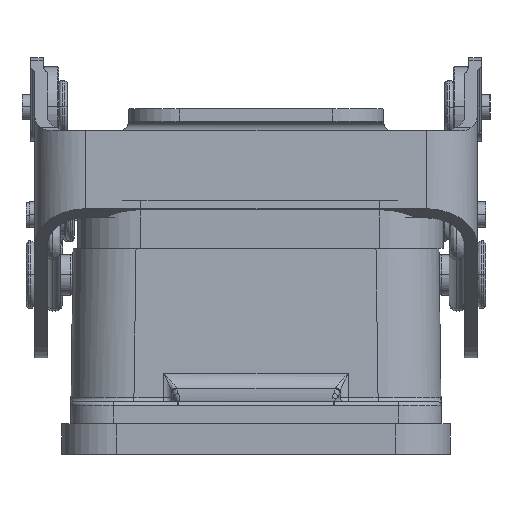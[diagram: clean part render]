
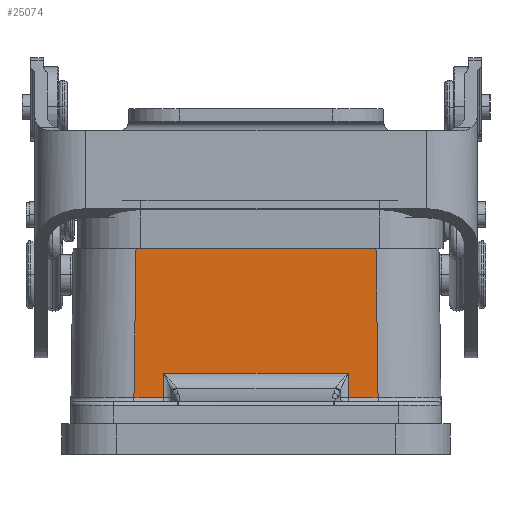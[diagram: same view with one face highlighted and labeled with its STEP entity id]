
A CAD part, left-side view. The second image highlights one B-rep face of the part: STEP entity #25074.
In plain terms, the highlighted planar face has unit normal (-1, 0, 0.014).
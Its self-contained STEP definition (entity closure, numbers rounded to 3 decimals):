
#640 = LINE ( 'NONE', #7027, #26975 ) ;
#1169 = ORIENTED_EDGE ( 'NONE', *, *, #28936, .F. ) ;
#1559 = ORIENTED_EDGE ( 'NONE', *, *, #28098, .T. ) ;
#2441 = EDGE_LOOP ( 'NONE', ( #34374, #26628, #1559, #34798, #1169, #27220, #21617, #18339 ) ) ;
#3457 = EDGE_CURVE ( 'NONE', #11421, #37320, #39206, .T. ) ;
#3568 = CARTESIAN_POINT ( 'NONE',  ( -60.244, -14.345, 4.693 ) ) ;
#4262 = FACE_OUTER_BOUND ( 'NONE', #2441, .T. ) ;
#4570 = VECTOR ( 'NONE', #5698, 1000. ) ;
#4842 = VECTOR ( 'NONE', #15498, 1000. ) ;
#5698 = DIRECTION ( 'NONE',  ( -0.014, 0., -1. ) ) ;
#5971 = VERTEX_POINT ( 'NONE', #38454 ) ;
#6070 = DIRECTION ( 'NONE',  ( 0., -1., 0. ) ) ;
#6888 = VERTEX_POINT ( 'NONE', #15482 ) ;
#7027 = CARTESIAN_POINT ( 'NONE',  ( -60.244, 24.278, 4.693 ) ) ;
#9315 = CARTESIAN_POINT ( 'NONE',  ( -60., 24.278, 22.2 ) ) ;
#9477 = CARTESIAN_POINT ( 'NONE',  ( -60.163, -14.263, 10.529 ) ) ;
#9784 = LINE ( 'NONE', #19325, #13772 ) ;
#10107 = LINE ( 'NONE', #24899, #13085 ) ;
#11247 = VECTOR ( 'NONE', #24128, 1000. ) ;
#11358 = CARTESIAN_POINT ( 'NONE',  ( -60.205, -10.869, 7.537 ) ) ;
#11421 = VERTEX_POINT ( 'NONE', #28373 ) ;
#13085 = VECTOR ( 'NONE', #31327, 1000. ) ;
#13111 = CARTESIAN_POINT ( 'NONE',  ( -60., -14.101, 22.2 ) ) ;
#13198 = CARTESIAN_POINT ( 'NONE',  ( -60.081, -14.182, 16.364 ) ) ;
#13423 = VERTEX_POINT ( 'NONE', #11358 ) ;
#13498 = DIRECTION ( 'NONE',  ( 0., -1., 0. ) ) ;
#13772 = VECTOR ( 'NONE', #6070, 1000. ) ;
#15482 = CARTESIAN_POINT ( 'NONE',  ( -60.244, -14.345, 4.693 ) ) ;
#15498 = DIRECTION ( 'NONE',  ( 0., -1., 0. ) ) ;
#15919 = CARTESIAN_POINT ( 'NONE',  ( -60., 0., 22.2 ) ) ;
#15995 = EDGE_CURVE ( 'NONE', #5971, #19628, #640, .T. ) ;
#16057 = DIRECTION ( 'NONE',  ( 0., -1., 0. ) ) ;
#16425 = EDGE_CURVE ( 'NONE', #18616, #13423, #37012, .T. ) ;
#16643 = B_SPLINE_CURVE_WITH_KNOTS ( 'NONE', 3,
 ( #28541, #13198, #9477, #3568 ),
 .UNSPECIFIED., .F., .F.,
 ( 4, 4 ),
 ( 0., 1. ),
 .UNSPECIFIED. ) ;
#18003 = CARTESIAN_POINT ( 'NONE',  ( -60., -10.869, 22.2 ) ) ;
#18339 = ORIENTED_EDGE ( 'NONE', *, *, #15995, .T. ) ;
#18616 = VERTEX_POINT ( 'NONE', #40104 ) ;
#19325 = CARTESIAN_POINT ( 'NONE',  ( -60.244, 24.278, 4.693 ) ) ;
#19628 = VERTEX_POINT ( 'NONE', #27970 ) ;
#20420 = LINE ( 'NONE', #18003, #4570 ) ;
#21160 = EDGE_CURVE ( 'NONE', #41052, #6888, #9784, .T. ) ;
#21546 = PLANE ( 'NONE',  #29749 ) ;
#21617 = ORIENTED_EDGE ( 'NONE', *, *, #24570, .T. ) ;
#24128 = DIRECTION ( 'NONE',  ( 0.014, 0., 1. ) ) ;
#24570 = EDGE_CURVE ( 'NONE', #11421, #5971, #10107, .T. ) ;
#24899 = CARTESIAN_POINT ( 'NONE',  ( -60., 14.101, 22.2 ) ) ;
#25044 = DIRECTION ( 'NONE',  ( 0.014, 0., 1. ) ) ;
#25074 = ADVANCED_FACE ( 'NONE', ( #4262 ), #21546, .T. ) ;
#26628 = ORIENTED_EDGE ( 'NONE', *, *, #16425, .T. ) ;
#26975 = VECTOR ( 'NONE', #13498, 1000. ) ;
#27220 = ORIENTED_EDGE ( 'NONE', *, *, #3457, .F. ) ;
#27337 = CARTESIAN_POINT ( 'NONE',  ( -60., 10.869, 22.2 ) ) ;
#27830 = DIRECTION ( 'NONE',  ( -1., 0., 0.014 ) ) ;
#27970 = CARTESIAN_POINT ( 'NONE',  ( -60.244, 10.869, 4.693 ) ) ;
#28098 = EDGE_CURVE ( 'NONE', #13423, #41052, #20420, .T. ) ;
#28144 = LINE ( 'NONE', #27337, #11247 ) ;
#28373 = CARTESIAN_POINT ( 'NONE',  ( -60., 14.101, 22.2 ) ) ;
#28541 = CARTESIAN_POINT ( 'NONE',  ( -60., -14.101, 22.2 ) ) ;
#28936 = EDGE_CURVE ( 'NONE', #37320, #6888, #16643, .T. ) ;
#29749 = AXIS2_PLACEMENT_3D ( 'NONE', #9315, #27830, #25044 ) ;
#31327 = DIRECTION ( 'NONE',  ( -0.014, 0.014, -1. ) ) ;
#34374 = ORIENTED_EDGE ( 'NONE', *, *, #37142, .T. ) ;
#34798 = ORIENTED_EDGE ( 'NONE', *, *, #21160, .T. ) ;
#34993 = VECTOR ( 'NONE', #16057, 1000. ) ;
#37012 = LINE ( 'NONE', #41185, #34993 ) ;
#37142 = EDGE_CURVE ( 'NONE', #19628, #18616, #28144, .T. ) ;
#37320 = VERTEX_POINT ( 'NONE', #13111 ) ;
#38454 = CARTESIAN_POINT ( 'NONE',  ( -60.244, 14.345, 4.693 ) ) ;
#39206 = LINE ( 'NONE', #15919, #4842 ) ;
#40104 = CARTESIAN_POINT ( 'NONE',  ( -60.205, 10.869, 7.537 ) ) ;
#40604 = CARTESIAN_POINT ( 'NONE',  ( -60.244, -10.869, 4.693 ) ) ;
#41052 = VERTEX_POINT ( 'NONE', #40604 ) ;
#41185 = CARTESIAN_POINT ( 'NONE',  ( -60.205, 24.278, 7.537 ) ) ;
